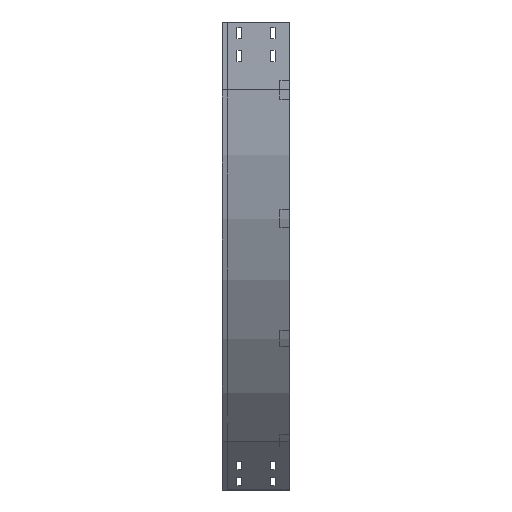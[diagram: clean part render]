
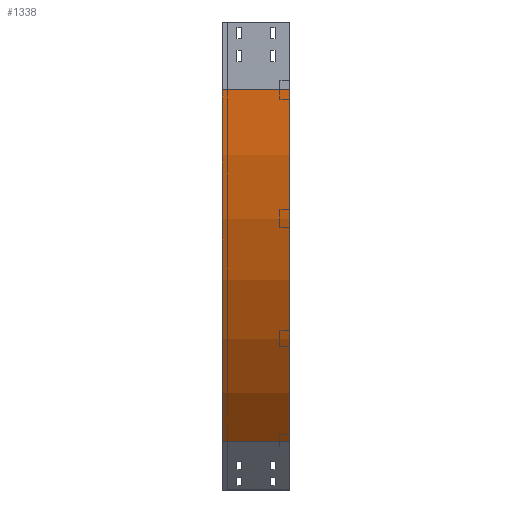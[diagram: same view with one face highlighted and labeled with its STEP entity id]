
A CAD part, left-side view. The second image highlights one B-rep face of the part: STEP entity #1338.
In plain terms, the highlighted cylindrical face has radius 1100 mm (diameter 2200 mm), a partial arc.
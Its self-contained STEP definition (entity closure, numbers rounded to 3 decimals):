
#7 = CARTESIAN_POINT ( 'NONE',  ( 322.183, 0., -927.817 ) ) ;
#38 = ORIENTED_EDGE ( 'NONE', *, *, #2686, .T. ) ;
#54 = VECTOR ( 'NONE', #3560, 1000. ) ;
#55 = ORIENTED_EDGE ( 'NONE', *, *, #3269, .T. ) ;
#87 = AXIS2_PLACEMENT_3D ( 'NONE', #189, #2824, #2264 ) ;
#114 = CYLINDRICAL_SURFACE ( 'NONE', #2612, 1100. ) ;
#123 = CARTESIAN_POINT ( 'NONE',  ( 0., 0., -150. ) ) ;
#189 = CARTESIAN_POINT ( 'NONE',  ( 1100., 150., -150. ) ) ;
#397 = CARTESIAN_POINT ( 'NONE',  ( 1100., 0., -150. ) ) ;
#583 = EDGE_LOOP ( 'NONE', ( #3295, #1282, #38, #55 ) ) ;
#584 = CARTESIAN_POINT ( 'NONE',  ( 1100., 0., -150. ) ) ;
#803 = EDGE_CURVE ( 'NONE', #3793, #3299, #1200, .T. ) ;
#880 = VECTOR ( 'NONE', #1166, 1000. ) ;
#897 = CARTESIAN_POINT ( 'NONE',  ( 0., 0., -150. ) ) ;
#997 = CIRCLE ( 'NONE', #87, 1100. ) ;
#1150 = EDGE_CURVE ( 'NONE', #3299, #2056, #1955, .T. ) ;
#1166 = DIRECTION ( 'NONE',  ( 0., -1., 0. ) ) ;
#1200 = LINE ( 'NONE', #897, #54 ) ;
#1273 = FACE_OUTER_BOUND ( 'NONE', #583, .T. ) ;
#1282 = ORIENTED_EDGE ( 'NONE', *, *, #803, .F. ) ;
#1338 = ADVANCED_FACE ( 'NONE', ( #1273 ), #114, .T. ) ;
#1381 = AXIS2_PLACEMENT_3D ( 'NONE', #584, #2988, #3265 ) ;
#1472 = LINE ( 'NONE', #7, #880 ) ;
#1692 = VERTEX_POINT ( 'NONE', #2337 ) ;
#1773 = CARTESIAN_POINT ( 'NONE',  ( 322.183, 0., -927.817 ) ) ;
#1826 = DIRECTION ( 'NONE',  ( 0., 0., -1. ) ) ;
#1955 = CIRCLE ( 'NONE', #1381, 1100. ) ;
#2056 = VERTEX_POINT ( 'NONE', #1773 ) ;
#2264 = DIRECTION ( 'NONE',  ( -1., 0., 0. ) ) ;
#2337 = CARTESIAN_POINT ( 'NONE',  ( 322.183, 150., -927.817 ) ) ;
#2612 = AXIS2_PLACEMENT_3D ( 'NONE', #397, #3654, #1826 ) ;
#2686 = EDGE_CURVE ( 'NONE', #3793, #1692, #997, .T. ) ;
#2824 = DIRECTION ( 'NONE',  ( 0., -1., 0. ) ) ;
#2988 = DIRECTION ( 'NONE',  ( 0., -1., 0. ) ) ;
#3265 = DIRECTION ( 'NONE',  ( -1., 0., 0. ) ) ;
#3269 = EDGE_CURVE ( 'NONE', #1692, #2056, #1472, .T. ) ;
#3295 = ORIENTED_EDGE ( 'NONE', *, *, #1150, .F. ) ;
#3299 = VERTEX_POINT ( 'NONE', #123 ) ;
#3334 = CARTESIAN_POINT ( 'NONE',  ( 0., 150., -150. ) ) ;
#3560 = DIRECTION ( 'NONE',  ( 0., -1., 0. ) ) ;
#3654 = DIRECTION ( 'NONE',  ( 0., -1., 0. ) ) ;
#3793 = VERTEX_POINT ( 'NONE', #3334 ) ;
